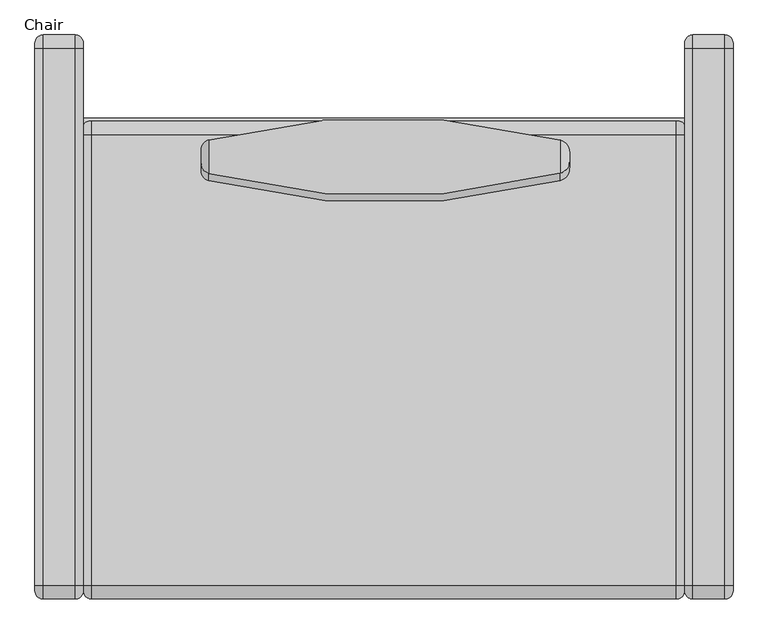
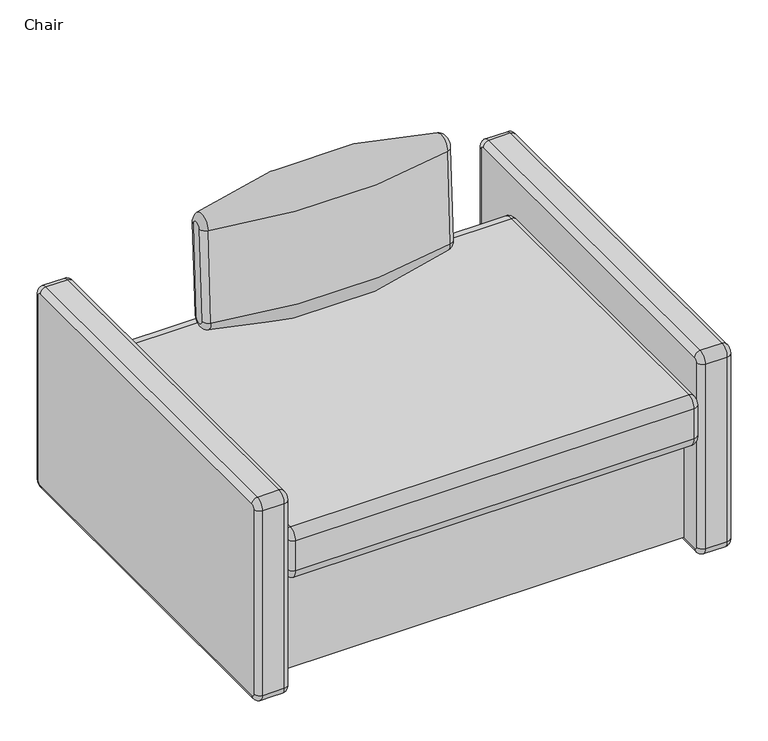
"""IFC4 building model written with IfcOpenShell, lengths in millimetres: furniture geometry, Steelcase Coalesse - Evaneau - Seating - Chair : Chair."""

from ifc_helpers import new_model, si_unit, point, frame, origin, place, context, project, spatial, polyline, circle_curve, ellipse_curve, trimmed, source, transform, mapped, element, save
from ifc_brep_helpers import plane_surface, cylinder_surface, revolved_surface, advanced_brep


def chair_3ea6e28a(model_context):
    return source(origin(), model_context, "Body", "AdvancedBrep", [
        advanced_brep(
        [(-942.8406826, 879.5738856, 692.9040621), (-942.8406826, 899.9232528, 691.8375969), (-942.8406826, 888.8224164, 480.0210201), (-942.8406826, 868.4730492, 481.0874852), (-930.9351855, 864.1774825, 693.7109534), (-930.9351855, 915.3196559, 691.0307057), (-395.2305616, 864.4998643, 693.6940581), (-395.2305616, 914.9972741, 691.047601), (-381.0204546, 882.8995406, 692.7297719), (-381.0204546, 896.5975978, 692.0118871), (-381.0204546, 871.7987042, 480.913195), (-381.0204546, 885.4967614, 480.1953103), (-395.2305616, 903.8964377, 479.2310241), (-395.2305616, 853.3990279, 481.8774812), (-930.9351855, 853.0766461, 481.8943765), (-930.9351855, 904.2188195, 479.2141288)],
        [
            (0, 1, circle_curve(frame((-942.8406826, 889.7485692, 692.3708295), z_axis=(-1.0, 0.0, 0.0), x_axis=(0.0, 0.9986295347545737, -0.052335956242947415)), 10.1886468)),
            (1, 2),
            (2, 3, circle_curve(frame((-942.8406826, 878.6477328, 480.5542526), z_axis=(-1.0, 0.0, 0.0), x_axis=(0.0, 0.9986295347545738, -0.05233595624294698)), 10.1886468)),
            (3, 0),
            (0, 4, circle_curve(frame((-926.905138, 879.5738856, 692.9040621), z_axis=(0.0, 0.05233595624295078, 0.9986295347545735), x_axis=(1.0, 0.0, 0.0)), 15.9355447)),
            (4, 5, circle_curve(frame((-930.9351855, 889.7485692, 692.3708295), z_axis=(-1.0, 0.0, 0.0), x_axis=(0.0, 0.9986295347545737, -0.052335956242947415)), 25.606179)),
            (5, 1, circle_curve(frame((-926.905138, 899.9232528, 691.8375969), z_axis=(0.0, 0.052335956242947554, 0.9986295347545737), x_axis=(1.0, 0.0, 0.0)), 15.9355447)),
            (4, 6, circle_curve(frame((-663.6988615, 1885.1277547, 640.2052169), z_axis=(0.0, 0.05233595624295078, 0.9986295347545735), x_axis=(1.0, 0.0, 0.0)), 1056.7012705)),
            (6, 7, circle_curve(frame((-395.2305616, 889.7485692, 692.3708295), z_axis=(-1.0, 0.0, 0.0), x_axis=(0.0, 0.9986295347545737, -0.052335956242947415)), 25.2833549)),
            (7, 5, circle_curve(frame((-663.6988615, -105.6306163, 744.5364422), z_axis=(0.0, 0.052335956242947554, 0.9986295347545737), x_axis=(1.0, 0.0, 0.0)), 1056.7012705)),
            (6, 8, circle_curve(frame((-400.0704546, 882.8995406, 692.7297719), z_axis=(0.0, 0.05233595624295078, 0.9986295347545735), x_axis=(1.0, 0.0, 0.0)), 19.05)),
            (8, 9, circle_curve(frame((-381.0204546, 889.7485692, 692.3708295), z_axis=(-1.0, 0.0, 0.0), x_axis=(0.0, 0.9986295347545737, -0.052335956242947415)), 6.8584279)),
            (9, 7, circle_curve(frame((-400.0704546, 896.5975978, 692.0118871), z_axis=(0.0, 0.052335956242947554, 0.9986295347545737), x_axis=(1.0, 0.0, 0.0)), 19.05)),
            (8, 10),
            (10, 11, circle_curve(frame((-381.0204546, 878.6477328, 480.5542526), z_axis=(1.0, 0.0, 0.0), x_axis=(0.0, 0.9986295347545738, -0.05233595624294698)), 6.8584279)),
            (11, 9),
            (12, 7),
            (11, 12, circle_curve(frame((-400.0704546, 885.4967614, 480.1953103), z_axis=(0.0, 0.052335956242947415, 0.9986295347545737), x_axis=(1.0, 0.0, 0.0)), 19.05)),
            (6, 13),
            (13, 10, circle_curve(frame((-400.0704546, 871.7987042, 480.913195), z_axis=(0.0, 0.05233595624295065, 0.9986295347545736), x_axis=(1.0, 0.0, 0.0)), 19.05)),
            (4, 14),
            (14, 13, circle_curve(frame((-663.6988615, 1874.0269183, 428.38864), z_axis=(0.0, 0.05233595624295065, 0.9986295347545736), x_axis=(1.0, 0.0, 0.0)), 1056.7012705)),
            (3, 14, circle_curve(frame((-926.905138, 868.4730492, 481.0874852), z_axis=(0.0, 0.05233595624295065, 0.9986295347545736), x_axis=(1.0, 0.0, 0.0)), 15.9355447)),
            (5, 15),
            (15, 2, circle_curve(frame((-926.905138, 888.8224164, 480.0210201), z_axis=(0.0, 0.052335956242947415, 0.9986295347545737), x_axis=(1.0, 0.0, 0.0)), 15.9355447)),
            (12, 15, circle_curve(frame((-663.6988615, -116.7314527, 532.7198653), z_axis=(0.0, 0.052335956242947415, 0.9986295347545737), x_axis=(1.0, 0.0, 0.0)), 1056.7012705)),
            (15, 14, circle_curve(frame((-930.9351855, 878.6477328, 480.5542526), z_axis=(-1.0, 0.0, 0.0), x_axis=(0.0, 0.9986295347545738, -0.05233595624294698)), 25.606179)),
            (13, 12, circle_curve(frame((-395.2305616, 878.6477328, 480.5542526), z_axis=(1.0, 0.0, 0.0), x_axis=(0.0, 0.9986295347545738, -0.05233595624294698)), 25.2833549)),
        ],
        [
            plane_surface(frame((-942.8406826, 889.7485692, 692.3708295), z_axis=(-1.0, 0.0, 0.0), x_axis=(0.0, 0.9986295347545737, -0.052335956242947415))),
            revolved_surface(trimmed(ellipse_curve(frame((-926.905138, 899.9232528, 691.8375969), z_axis=(0.0, -0.052335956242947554, -0.9986295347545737), x_axis=(1.0, 0.0, 0.0)), 15.9355447, 15.9355447), [point((-942.8406826, 899.9232528, 691.8375969))], [point((-930.9351855, 915.3196559, 691.0307057))], True, "CARTESIAN"), (-942.8406826, 889.7485692, 692.3708295), (1.0, 0.0, 0.0)),
            revolved_surface(trimmed(ellipse_curve(frame((-663.6988615, -105.6306163, 744.5364422), z_axis=(0.0, -0.052335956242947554, -0.9986295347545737), x_axis=(1.0, 0.0, 0.0)), 1056.7012705, 1056.7012705), [point((-930.9351855, 915.3196559, 691.0307057))], [point((-395.2305616, 914.9972741, 691.047601))], True, "CARTESIAN"), (-942.8406826, 889.7485692, 692.3708295), (1.0, 0.0, 0.0)),
            revolved_surface(trimmed(ellipse_curve(frame((-400.0704546, 896.5975978, 692.0118871), z_axis=(0.0, -0.052335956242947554, -0.9986295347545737), x_axis=(1.0, 0.0, 0.0)), 19.05, 19.05), [point((-395.2305616, 914.9972741, 691.047601))], [point((-381.0204546, 896.5975978, 692.0118871))], True, "CARTESIAN"), (-942.8406826, 889.7485692, 692.3708295), (1.0, 0.0, 0.0)),
            plane_surface(frame((-381.0204546, 889.7485692, 692.3708295), z_axis=(1.0, 0.0, 0.0), x_axis=(0.0, 0.9986295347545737, -0.052335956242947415))),
            cylinder_surface(frame((-400.0704546, 896.5975978, 692.0118871), z_axis=(0.0, -0.052335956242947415, -0.9986295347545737), x_axis=(1.0, 0.0, 0.0)), 19.05),
            cylinder_surface(frame((-400.0704546, 882.8995406, 692.7297719), z_axis=(0.0, -0.05233595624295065, -0.9986295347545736), x_axis=(1.0, 0.0, 0.0)), 19.05),
            cylinder_surface(frame((-663.6988615, 1885.1277547, 640.2052169), z_axis=(0.0, -0.05233595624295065, -0.9986295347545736), x_axis=(1.0, 0.0, 0.0)), 1056.7012705),
            cylinder_surface(frame((-926.905138, 879.5738856, 692.9040621), z_axis=(0.0, -0.05233595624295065, -0.9986295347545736), x_axis=(1.0, 0.0, 0.0)), 15.9355447),
            cylinder_surface(frame((-926.905138, 899.9232528, 691.8375969), z_axis=(0.0, -0.052335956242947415, -0.9986295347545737), x_axis=(1.0, 0.0, 0.0)), 15.9355447),
            cylinder_surface(frame((-663.6988615, -105.6306163, 744.5364422), z_axis=(0.0, -0.052335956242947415, -0.9986295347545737), x_axis=(1.0, 0.0, 0.0)), 1056.7012705),
            revolved_surface(trimmed(ellipse_curve(frame((-926.905138, 888.8224164, 480.0210201), z_axis=(0.0, 0.05233595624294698, 0.9986295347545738), x_axis=(1.0, 0.0, 0.0)), 15.9355447, 15.9355447), [point((-930.9351855, 904.2188195, 479.2141288))], [point((-942.8406826, 888.8224164, 480.0210201))], True, "CARTESIAN"), (-381.0204546, 878.6477328, 480.5542526), (-1.0, 0.0, 0.0)),
            revolved_surface(trimmed(ellipse_curve(frame((-400.0704546, 885.4967614, 480.1953103), z_axis=(0.0, 0.05233595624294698, 0.9986295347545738), x_axis=(1.0, 0.0, 0.0)), 19.05, 19.05), [point((-381.0204546, 885.4967614, 480.1953103))], [point((-395.2305616, 903.8964377, 479.2310241))], True, "CARTESIAN"), (-381.0204546, 878.6477328, 480.5542526), (-1.0, 0.0, 0.0)),
            revolved_surface(trimmed(ellipse_curve(frame((-663.6988615, -116.7314527, 532.7198653), z_axis=(0.0, 0.05233595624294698, 0.9986295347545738), x_axis=(1.0, 0.0, 0.0)), 1056.7012705, 1056.7012705), [point((-395.2305616, 903.8964377, 479.2310241))], [point((-930.9351855, 904.2188195, 479.2141288))], True, "CARTESIAN"), (-381.0204546, 878.6477328, 480.5542526), (-1.0, 0.0, 0.0)),
        ],
        [
            (0, [[1, 2, 3, 4]]),
            (1, [[-1, 5, 6, 7]]),
            (2, [[-6, 8, 9, 10]]),
            (3, [[-9, 11, 12, 13]]),
            (4, [[-12, 14, 15, 16]]),
            (5, [[17, -13, -16, 18]]),
            (6, [[-14, -11, 19, 20]]),
            (7, [[-19, -8, 21, 22]]),
            (8, [[-21, -5, -4, 23]]),
            (9, [[-2, -7, 24, 25]]),
            (10, [[-17, 26, -24, -10]]),
            (11, [[-3, -25, 27, -23]]),
            (12, [[-15, -20, 28, -18]]),
            (13, [[-27, -26, -28, -22]]),
        ],
    ),
        advanced_brep(
        [(-1122.2082605, 232.8871832, 334.6073799), (-1122.2082605, 234.5671953, 336.5124442), (-206.5501978, 234.5671953, 336.5124442), (-205.6275834, 234.5671953, 336.5124442), (-205.6275834, 232.8871832, 334.6073799), (-218.3275834, 224.4871947, 325.0821401), (-1109.5082605, 224.4871947, 325.0821401), (-1122.2082605, 227.727162, 346.037684), (-1122.2082605, 227.727162, 416.7787342), (-1122.2082605, 235.3471838, 424.398756), (-1122.2082605, 922.9861595, 424.398756), (-1122.2082605, 937.6711322, 420.2283871), (-1122.2082605, 936.3361242, 418.0674927), (-1122.2082605, 948.3861595, 396.4587342), (-1122.2082605, 948.3861595, 71.5737426), (-1122.2082605, 276.8732961, 71.5737426), (-1122.2082605, 276.8732961, 333.337684), (-1122.2082605, 242.9671838, 333.337684), (-205.6275834, 230.2671838, 346.037684), (-206.5501978, 230.2671838, 346.037684), (-205.6275834, 230.2671838, 416.7787342), (-205.6275834, 235.3471838, 421.8587342), (-205.6275834, 922.9861595, 421.8587342), (-205.6275834, 936.3361242, 418.0674927), (-205.6275834, 937.6711322, 420.2283871), (-205.6275834, 922.9861595, 424.398756), (-205.6275834, 235.3471838, 424.398756), (-205.6275834, 227.727162, 416.7787342), (-205.6275834, 227.727162, 346.037684), (-218.3275834, 215.027162, 346.037684), (-1109.5082605, 215.027162, 346.037684), (-206.5501978, 230.2671838, 416.7787342), (-218.3275834, 215.027162, 416.7787342), (-1109.5082605, 215.027162, 416.7787342), (-206.5501978, 235.3471838, 421.8587342), (-218.3275834, 235.3471838, 437.098756), (-1109.5082605, 235.3471838, 437.098756), (-206.5501978, 922.9861595, 421.8587342), (-218.3275834, 922.9861595, 437.098756), (-1109.5082605, 922.9861595, 437.098756), (-1109.5082605, 944.3461145, 431.0327663), (-218.3275834, 944.3461145, 431.0327663), (-206.5501978, 936.3361242, 418.0674927), (-206.5501978, 242.9671838, 333.337684), (-206.5501978, 276.8732961, 333.337684), (-206.5501978, 276.8732961, 71.5737426), (-206.5501978, 948.3861595, 71.5737426), (-206.5501978, 948.3861595, 396.4587342)],
        [
            (0, 1),
            (1, 2),
            (2, 3),
            (3, 4),
            (4, 5, circle_curve(frame((-218.3275834, 232.8871832, 334.6073799), z_axis=(0.0, 0.7500188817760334, -0.6614164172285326), x_axis=(1.0, 0.0, 0.0)), 12.7)),
            (5, 6),
            (6, 0, circle_curve(frame((-1109.5082605, 232.8871832, 334.6073799), z_axis=(0.0, 0.7500188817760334, -0.6614164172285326), x_axis=(1.0, 0.0, 0.0)), 12.7)),
            (0, 7, circle_curve(frame((-1122.2082605, 242.9671838, 346.037684), z_axis=(-1.0, 0.0, 0.0), x_axis=(0.0, -0.6614164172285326, -0.7500188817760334)), 15.2400218)),
            (7, 8),
            (8, 9, circle_curve(frame((-1122.2082605, 235.3471838, 416.7787342), z_axis=(-1.0, 0.0, 0.0), x_axis=(0.0, -1.0, 0.0)), 7.6200218)),
            (9, 10),
            (10, 11, circle_curve(frame((-1122.2082605, 922.9861595, 396.4587342), z_axis=(-1.0, 0.0, 0.0), x_axis=(0.0, 0.0, 1.0)), 27.9400218)),
            (11, 12),
            (12, 13, circle_curve(frame((-1122.2082605, 922.9861595, 396.4587342), z_axis=(-1.0, 0.0, 0.0), x_axis=(0.0, -1.0, 0.0)), 25.4)),
            (13, 14),
            (14, 15),
            (15, 16),
            (16, 17),
            (17, 1, circle_curve(frame((-1122.2082605, 242.9671838, 346.037684), z_axis=(-1.0, 0.0, 0.0), x_axis=(0.0, -1.0, 0.0)), 12.7)),
            (18, 3, circle_curve(frame((-205.6275834, 242.9671838, 346.037684), z_axis=(1.0, 0.0, 0.0), x_axis=(0.0, -0.6614164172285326, -0.7500188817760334)), 12.7)),
            (2, 19, circle_curve(frame((-206.5501978, 242.9671838, 346.037684), z_axis=(-1.0, 0.0, 0.0), x_axis=(0.0, -0.6614164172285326, -0.7500188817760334)), 12.7)),
            (19, 18),
            (18, 20),
            (20, 21, circle_curve(frame((-205.6275834, 235.3471838, 416.7787342), z_axis=(-1.0, 0.0, 0.0), x_axis=(0.0, -1.0, 0.0)), 5.08)),
            (21, 22),
            (22, 23, circle_curve(frame((-205.6275834, 922.9861595, 396.4587342), z_axis=(-1.0, 0.0, 0.0), x_axis=(0.0, 0.0, 1.0)), 25.4)),
            (23, 24),
            (24, 25, circle_curve(frame((-205.6275834, 922.9861595, 396.4587342), z_axis=(1.0, 0.0, 0.0), x_axis=(0.0, 0.0, 1.0)), 27.9400218)),
            (25, 26),
            (26, 27, circle_curve(frame((-205.6275834, 235.3471838, 416.7787342), z_axis=(1.0, 0.0, 0.0), x_axis=(0.0, -1.0, 0.0)), 7.6200218)),
            (27, 28),
            (28, 4, circle_curve(frame((-205.6275834, 242.9671838, 346.037684), z_axis=(1.0, 0.0, 0.0), x_axis=(0.0, -0.6614164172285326, -0.7500188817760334)), 15.2400218)),
            (28, 29, circle_curve(frame((-218.3275834, 227.727162, 346.037684), z_axis=(0.0, 0.0, -1.0), x_axis=(1.0, 0.0, 0.0)), 12.7)),
            (29, 5, circle_curve(frame((-218.3275834, 242.9671838, 346.037684), z_axis=(1.0, 0.0, 0.0), x_axis=(0.0, -0.6614164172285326, -0.7500188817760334)), 27.9400218)),
            (29, 30),
            (30, 6, circle_curve(frame((-1109.5082605, 242.9671838, 346.037684), z_axis=(1.0, 0.0, 0.0), x_axis=(0.0, -0.6614164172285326, -0.7500188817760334)), 27.9400218)),
            (30, 7, circle_curve(frame((-1109.5082605, 227.727162, 346.037684), z_axis=(0.0, 0.0, -1.0), x_axis=(1.0, 0.0, 0.0)), 12.7)),
            (19, 31),
            (31, 20),
            (27, 32, circle_curve(frame((-218.3275834, 227.727162, 416.7787342), z_axis=(0.0, 0.0, -1.0), x_axis=(1.0, 0.0, 0.0)), 12.7)),
            (32, 29),
            (32, 33),
            (33, 30),
            (33, 8, circle_curve(frame((-1109.5082605, 227.727162, 416.7787342), z_axis=(0.0, 0.0, -1.0), x_axis=(1.0, 0.0, 0.0)), 12.7)),
            (31, 34, circle_curve(frame((-206.5501978, 235.3471838, 416.7787342), z_axis=(-1.0, 0.0, 0.0), x_axis=(0.0, -1.0, 0.0)), 5.08)),
            (34, 21),
            (26, 35, circle_curve(frame((-218.3275834, 235.3471838, 424.398756), z_axis=(0.0, -1.0, 0.0), x_axis=(1.0, 0.0, 0.0)), 12.7)),
            (35, 32, circle_curve(frame((-218.3275834, 235.3471838, 416.7787342), z_axis=(1.0, 0.0, 0.0), x_axis=(0.0, -1.0, 0.0)), 20.3200218)),
            (35, 36),
            (36, 33, circle_curve(frame((-1109.5082605, 235.3471838, 416.7787342), z_axis=(1.0, 0.0, 0.0), x_axis=(0.0, -1.0, 0.0)), 20.3200218)),
            (36, 9, circle_curve(frame((-1109.5082605, 235.3471838, 424.398756), z_axis=(0.0, -1.0, 0.0), x_axis=(1.0, 0.0, 0.0)), 12.7)),
            (34, 37),
            (37, 22),
            (25, 38, circle_curve(frame((-218.3275834, 922.9861595, 424.398756), z_axis=(0.0, -1.0, 0.0), x_axis=(1.0, 0.0, 0.0)), 12.7)),
            (38, 35),
            (38, 39),
            (39, 36),
            (39, 10, circle_curve(frame((-1109.5082605, 922.9861595, 424.398756), z_axis=(0.0, -1.0, 0.0), x_axis=(1.0, 0.0, 0.0)), 12.7)),
            (11, 40, circle_curve(frame((-1109.5082605, 937.6711322, 420.2283871), z_axis=(0.0, 0.850738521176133, -0.525589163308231), x_axis=(1.0, 0.0, 0.0)), 12.7)),
            (40, 41),
            (41, 24, circle_curve(frame((-218.3275834, 937.6711322, 420.2283871), z_axis=(0.0, 0.850738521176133, -0.525589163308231), x_axis=(1.0, 0.0, 0.0)), 12.7)),
            (23, 42),
            (42, 12),
            (37, 42, circle_curve(frame((-206.5501978, 922.9861595, 396.4587342), z_axis=(-1.0, 0.0, 0.0), x_axis=(0.0, 0.0, 1.0)), 25.4)),
            (41, 38, circle_curve(frame((-218.3275834, 922.9861595, 396.4587342), z_axis=(1.0, 0.0, 0.0), x_axis=(0.0, 0.0, 1.0)), 40.6400218)),
            (40, 39, circle_curve(frame((-1109.5082605, 922.9861595, 396.4587342), z_axis=(1.0, 0.0, 0.0), x_axis=(0.0, 0.0, 1.0)), 40.6400218)),
            (43, 44),
            (44, 45),
            (45, 46),
            (46, 47),
            (47, 42, circle_curve(frame((-206.5501978, 922.9861595, 396.4587342), z_axis=(1.0, 0.0, 0.0), x_axis=(0.0, -1.0, 0.0)), 25.4)),
            (2, 43, circle_curve(frame((-206.5501978, 242.9671838, 346.037684), z_axis=(1.0, 0.0, 0.0), x_axis=(0.0, -1.0, 0.0)), 12.7)),
            (47, 13),
            (46, 14),
            (45, 15),
            (44, 16),
            (43, 17),
        ],
        [
            plane_surface(frame((-663.917922, 234.5671953, 336.5124442), z_axis=(0.0, 0.7500188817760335, -0.6614164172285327), x_axis=(-1.0, 0.0, 0.0))),
            plane_surface(frame((-1122.2082605, 242.9671838, 346.037684), z_axis=(-1.0, 0.0, 0.0), x_axis=(0.0, -0.6614164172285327, -0.7500188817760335))),
            revolved_surface(polyline([(-206.55019779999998, 234.56719530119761, 336.5124442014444), (-205.6275834, 234.56719530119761, 336.5124442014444)]), (-663.917922, 242.9671838, 346.037684), (-1.0, 0.0, 0.0)),
            plane_surface(frame((-205.6275834, 242.9671838, 346.037684), z_axis=(1.0, 0.0, 0.0), x_axis=(0.0, -0.6614164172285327, -0.7500188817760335))),
            revolved_surface(trimmed(ellipse_curve(frame((-218.3275834, 232.8871832, 334.6073799), z_axis=(0.0, 0.7500188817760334, -0.6614164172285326), x_axis=(1.0, 0.0, 0.0)), 12.7, 12.7), [point((-205.6275834, 232.8871832, 334.6073799))], [point((-218.3275834, 224.4871947, 325.0821401))], True, "CARTESIAN"), (-663.917922, 242.9671838, 346.037684), (-1.0, 0.0, 0.0)),
            cylinder_surface(frame((-663.917922, 242.9671838, 346.037684), z_axis=(-1.0, 0.0, 0.0), x_axis=(0.0, -0.6614164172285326, -0.7500188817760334)), 27.9400218),
            revolved_surface(trimmed(ellipse_curve(frame((-1109.5082605, 232.8871832, 334.6073799), z_axis=(0.0, 0.7500188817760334, -0.6614164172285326), x_axis=(1.0, 0.0, 0.0)), 12.7, 12.7), [point((-1109.5082605, 224.4871947, 325.0821401))], [point((-1122.2082605, 232.8871832, 334.6073799))], True, "CARTESIAN"), (-663.917922, 242.9671838, 346.037684), (-1.0, 0.0, 0.0)),
            plane_surface(frame((-1122.2082605, 230.2671838, 346.037684), z_axis=(0.0, 1.0, 0.0), x_axis=(0.0, 0.0, 1.0))),
            cylinder_surface(frame((-218.3275834, 227.727162, 346.037684), z_axis=(0.0, 0.0, -1.0), x_axis=(1.0, 0.0, 0.0)), 12.7),
            plane_surface(frame((-218.3275834, 215.027162, 346.037684), z_axis=(0.0, -1.0, 0.0), x_axis=(0.0, 0.0, 1.0))),
            cylinder_surface(frame((-1109.5082605, 227.727162, 346.037684), z_axis=(0.0, 0.0, -1.0), x_axis=(1.0, 0.0, 0.0)), 12.7),
            revolved_surface(polyline([(-206.55019779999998, 230.2671838, 416.7787342), (-205.6275834, 230.2671838, 416.7787342)]), (-663.917922, 235.3471838, 416.7787342), (-1.0, 0.0, 0.0)),
            revolved_surface(trimmed(ellipse_curve(frame((-218.3275834, 227.727162, 416.7787342), z_axis=(0.0, 0.0, -1.0), x_axis=(1.0, 0.0, 0.0)), 12.7, 12.7), [point((-205.6275834, 227.727162, 416.7787342))], [point((-218.3275834, 215.027162, 416.7787342))], True, "CARTESIAN"), (-663.917922, 235.3471838, 416.7787342), (-1.0, 0.0, 0.0)),
            cylinder_surface(frame((-663.917922, 235.3471838, 416.7787342), z_axis=(-1.0, 0.0, 0.0), x_axis=(0.0, -1.0, 0.0)), 20.3200218),
            revolved_surface(trimmed(ellipse_curve(frame((-1109.5082605, 227.727162, 416.7787342), z_axis=(0.0, 0.0, -1.0), x_axis=(1.0, 0.0, 0.0)), 12.7, 12.7), [point((-1109.5082605, 215.027162, 416.7787342))], [point((-1122.2082605, 227.727162, 416.7787342))], True, "CARTESIAN"), (-663.917922, 235.3471838, 416.7787342), (-1.0, 0.0, 0.0)),
            plane_surface(frame((-1122.2082605, 235.3471838, 421.8587342), z_axis=(0.0, 0.0, -1.0), x_axis=(0.0, 1.0, 0.0))),
            cylinder_surface(frame((-218.3275834, 235.3471838, 424.398756), z_axis=(0.0, -1.0, 0.0), x_axis=(1.0, 0.0, 0.0)), 12.7),
            plane_surface(frame((-218.3275834, 235.3471838, 437.098756), z_axis=(0.0, 0.0, 1.0), x_axis=(0.0, 1.0, 0.0))),
            cylinder_surface(frame((-1109.5082605, 235.3471838, 424.398756), z_axis=(0.0, -1.0, 0.0), x_axis=(1.0, 0.0, 0.0)), 12.7),
            plane_surface(frame((-663.917922, 936.3361242, 418.0674927), z_axis=(0.0, 0.850738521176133, -0.5255891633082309), x_axis=(-1.0, 0.0, 0.0))),
            revolved_surface(polyline([(-206.55019779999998, 922.9861595, 421.85873419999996), (-205.6275834, 922.9861595, 421.85873419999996)]), (-663.917922, 922.9861595, 396.4587342), (-1.0, 0.0, 0.0)),
            revolved_surface(trimmed(ellipse_curve(frame((-218.3275834, 922.9861595, 424.398756), z_axis=(0.0, -1.0, 0.0), x_axis=(1.0, 0.0, 0.0)), 12.7, 12.7), [point((-205.6275834, 922.9861595, 424.398756))], [point((-218.3275834, 922.9861595, 437.098756))], True, "CARTESIAN"), (-663.917922, 922.9861595, 396.4587342), (-1.0, 0.0, 0.0)),
            cylinder_surface(frame((-663.917922, 922.9861595, 396.4587342), z_axis=(-1.0, 0.0, 0.0), x_axis=(0.0, 0.0, 1.0)), 40.6400218),
            revolved_surface(trimmed(ellipse_curve(frame((-1109.5082605, 922.9861595, 424.398756), z_axis=(0.0, -1.0, 0.0), x_axis=(1.0, 0.0, 0.0)), 12.7, 12.7), [point((-1109.5082605, 922.9861595, 437.098756))], [point((-1122.2082605, 922.9861595, 424.398756))], True, "CARTESIAN"), (-663.917922, 922.9861595, 396.4587342), (-1.0, 0.0, 0.0)),
            plane_surface(frame((-206.5501978, 948.3861595, 421.8587342), z_axis=(1.0, 0.0, 0.0), x_axis=(0.0, -1.0, 0.0))),
            cylinder_surface(frame((-206.5501978, 922.9861595, 396.4587342), z_axis=(-1.0, 0.0, 0.0), x_axis=(0.0, -1.0, 0.0)), 25.4),
            plane_surface(frame((-1122.2082605, 948.3861595, 396.4587342), z_axis=(0.0, 1.0, 0.0), x_axis=(1.0, 0.0, 0.0))),
            plane_surface(frame((-1122.2082605, 948.3861595, 71.5737426), z_axis=(0.0, 0.0, -1.0), x_axis=(1.0, 0.0, 0.0))),
            plane_surface(frame((-1122.2082605, 276.8732961, 71.5737426), z_axis=(0.0, -1.0, 0.0), x_axis=(1.0, 0.0, 0.0))),
            plane_surface(frame((-1122.2082605, 276.8732961, 333.337684), z_axis=(0.0, 0.0, -1.0), x_axis=(1.0, 0.0, 0.0))),
            cylinder_surface(frame((-206.5501978, 242.9671838, 346.037684), z_axis=(-1.0, 0.0, 0.0), x_axis=(0.0, -1.0, 0.0)), 12.7),
        ],
        [
            (0, [[1, 2, 3, 4, 5, 6, 7]]),
            (1, [[-1, 8, 9, 10, 11, 12, 13, 14, 15, 16, 17, 18, 19]]),
            (2, [[20, -3, 21, 22]]),
            (3, [[-4, -20, 23, 24, 25, 26, 27, 28, 29, 30, 31, 32]]),
            (4, [[-5, -32, 33, 34]]),
            (5, [[-6, -34, 35, 36]]),
            (6, [[-7, -36, 37, -8]]),
            (7, [[-23, -22, 38, 39]]),
            (8, [[-31, 40, 41, -33]]),
            (9, [[-35, -41, 42, 43]]),
            (10, [[-9, -37, -43, 44]]),
            (11, [[-24, -39, 45, 46]]),
            (12, [[-30, 47, 48, -40]]),
            (13, [[-42, -48, 49, 50]]),
            (14, [[-10, -44, -50, 51]]),
            (15, [[-25, -46, 52, 53]]),
            (16, [[-29, 54, 55, -47]]),
            (17, [[-49, -55, 56, 57]]),
            (18, [[-11, -51, -57, 58]]),
            (19, [[-13, 59, 60, 61, -27, 62, 63]]),
            (20, [[-26, -53, 64, -62]]),
            (21, [[-28, -61, 65, -54]]),
            (22, [[-56, -65, -60, 66]]),
            (23, [[-12, -58, -66, -59]]),
            (24, [[67, 68, 69, 70, 71, -64, -52, -45, -38, -21, 72]]),
            (25, [[73, -14, -63, -71]]),
            (26, [[-15, -73, -70, 74]]),
            (27, [[-16, -74, -69, 75]]),
            (28, [[-17, -75, -68, 76]]),
            (29, [[-18, -76, -67, 77]]),
            (30, [[-77, -72, -2, -19]]),
        ],
    ),
        advanced_brep(
        [(-1196.1025873, 1055.3115321, 520.7), (-1196.1025873, 1062.9315539, 513.0799782), (-1196.1025873, 1062.9315539, 76.6537426), (-1196.1025873, 1055.3115321, 69.0337208), (-1196.1025873, 235.3471838, 69.0337208), (-1196.1025873, 227.727162, 76.6537426), (-1196.1025873, 227.727162, 513.0799782), (-1196.1025873, 235.3471838, 520.7), (-1122.2082605, 1062.9315539, 513.0799782), (-1122.2082605, 1055.3115321, 520.7), (-1122.2082605, 235.3471838, 520.7), (-1122.2082605, 227.727162, 513.0799782), (-1122.2082605, 227.727162, 76.6537426), (-1122.2082605, 235.3471838, 69.0337208), (-1122.2082605, 1055.3115321, 69.0337208), (-1122.2082605, 1062.9315539, 76.6537426), (-1134.9082605, 1075.6315539, 513.0799782), (-1134.9082605, 1055.3115321, 533.4), (-1183.4025873, 1075.6315539, 513.0799782), (-1183.4025873, 1055.3115321, 533.4), (-1134.9082605, 1075.6315539, 76.6537426), (-1183.4025873, 1075.6315539, 76.6537426), (-1134.9082605, 1055.3115321, 56.3337208), (-1183.4025873, 1055.3115321, 56.3337208), (-1134.9082605, 235.3471838, 56.3337208), (-1183.4025873, 235.3471838, 56.3337208), (-1134.9082605, 215.027162, 76.6537426), (-1183.4025873, 215.027162, 76.6537426), (-1134.9082605, 215.027162, 513.0799782), (-1183.4025873, 215.027162, 513.0799782), (-1134.9082605, 235.3471838, 533.4), (-1183.4025873, 235.3471838, 533.4)],
        [
            (0, 1, circle_curve(frame((-1196.1025873, 1055.3115321, 513.0799782), z_axis=(-1.0, 0.0, 0.0), x_axis=(0.0, 0.0, 1.0)), 7.6200218)),
            (1, 2),
            (2, 3, circle_curve(frame((-1196.1025873, 1055.3115321, 76.6537426), z_axis=(-1.0, 0.0, 0.0), x_axis=(0.0, 1.0, 0.0)), 7.6200218)),
            (3, 4),
            (4, 5, circle_curve(frame((-1196.1025873, 235.3471838, 76.6537426), z_axis=(-1.0, 0.0, 0.0), x_axis=(0.0, 0.0, -1.0)), 7.6200218)),
            (5, 6),
            (6, 7, circle_curve(frame((-1196.1025873, 235.3471838, 513.0799782), z_axis=(-1.0, 0.0, 0.0), x_axis=(0.0, -1.0, 0.0)), 7.6200218)),
            (7, 0),
            (8, 9, circle_curve(frame((-1122.2082605, 1055.3115321, 513.0799782), z_axis=(1.0, 0.0, 0.0), x_axis=(0.0, 0.0, 1.0)), 7.6200218)),
            (9, 10),
            (10, 11, circle_curve(frame((-1122.2082605, 235.3471838, 513.0799782), z_axis=(1.0, 0.0, 0.0), x_axis=(0.0, -1.0, 0.0)), 7.6200218)),
            (11, 12),
            (12, 13, circle_curve(frame((-1122.2082605, 235.3471838, 76.6537426), z_axis=(1.0, 0.0, 0.0), x_axis=(0.0, 0.0, -1.0)), 7.6200218)),
            (13, 14),
            (14, 15, circle_curve(frame((-1122.2082605, 1055.3115321, 76.6537426), z_axis=(1.0, 0.0, 0.0), x_axis=(0.0, 1.0, 0.0)), 7.6200218)),
            (15, 8),
            (16, 17, circle_curve(frame((-1134.9082605, 1055.3115321, 513.0799782), z_axis=(1.0, 0.0, 0.0), x_axis=(0.0, 0.0, 1.0)), 20.3200218)),
            (17, 9, circle_curve(frame((-1134.9082605, 1055.3115321, 520.7), z_axis=(0.0, 1.0, 0.0), x_axis=(1.0, 0.0, 0.0)), 12.7)),
            (8, 16, circle_curve(frame((-1134.9082605, 1062.9315539, 513.0799782), z_axis=(0.0, 0.0, 1.0), x_axis=(1.0, 0.0, 0.0)), 12.7)),
            (16, 18),
            (18, 19, circle_curve(frame((-1183.4025873, 1055.3115321, 513.0799782), z_axis=(1.0, 0.0, 0.0), x_axis=(0.0, 0.0, 1.0)), 20.3200218)),
            (19, 17),
            (18, 1, circle_curve(frame((-1183.4025873, 1062.9315539, 513.0799782), z_axis=(0.0, 0.0, 1.0), x_axis=(1.0, 0.0, 0.0)), 12.7)),
            (0, 19, circle_curve(frame((-1183.4025873, 1055.3115321, 520.7), z_axis=(0.0, 1.0, 0.0), x_axis=(1.0, 0.0, 0.0)), 12.7)),
            (15, 20, circle_curve(frame((-1134.9082605, 1062.9315539, 76.6537426), z_axis=(0.0, 0.0, 1.0), x_axis=(1.0, 0.0, 0.0)), 12.7)),
            (20, 16),
            (20, 21),
            (21, 18),
            (21, 2, circle_curve(frame((-1183.4025873, 1062.9315539, 76.6537426), z_axis=(0.0, 0.0, 1.0), x_axis=(1.0, 0.0, 0.0)), 12.7)),
            (14, 22, circle_curve(frame((-1134.9082605, 1055.3115321, 69.0337208), z_axis=(0.0, 1.0, 0.0), x_axis=(1.0, 0.0, 0.0)), 12.7)),
            (22, 20, circle_curve(frame((-1134.9082605, 1055.3115321, 76.6537426), z_axis=(1.0, 0.0, 0.0), x_axis=(0.0, 1.0, 0.0)), 20.3200218)),
            (22, 23),
            (23, 21, circle_curve(frame((-1183.4025873, 1055.3115321, 76.6537426), z_axis=(1.0, 0.0, 0.0), x_axis=(0.0, 1.0, 0.0)), 20.3200218)),
            (23, 3, circle_curve(frame((-1183.4025873, 1055.3115321, 69.0337208), z_axis=(0.0, 1.0, 0.0), x_axis=(1.0, 0.0, 0.0)), 12.7)),
            (13, 24, circle_curve(frame((-1134.9082605, 235.3471838, 69.0337208), z_axis=(0.0, 1.0, 0.0), x_axis=(1.0, 0.0, 0.0)), 12.7)),
            (24, 22),
            (24, 25),
            (25, 23),
            (25, 4, circle_curve(frame((-1183.4025873, 235.3471838, 69.0337208), z_axis=(0.0, 1.0, 0.0), x_axis=(1.0, 0.0, 0.0)), 12.7)),
            (12, 26, circle_curve(frame((-1134.9082605, 227.727162, 76.6537426), z_axis=(0.0, 0.0, -1.0), x_axis=(1.0, 0.0, 0.0)), 12.7)),
            (26, 24, circle_curve(frame((-1134.9082605, 235.3471838, 76.6537426), z_axis=(1.0, 0.0, 0.0), x_axis=(0.0, 0.0, -1.0)), 20.3200218)),
            (26, 27),
            (27, 25, circle_curve(frame((-1183.4025873, 235.3471838, 76.6537426), z_axis=(1.0, 0.0, 0.0), x_axis=(0.0, 0.0, -1.0)), 20.3200218)),
            (27, 5, circle_curve(frame((-1183.4025873, 227.727162, 76.6537426), z_axis=(0.0, 0.0, -1.0), x_axis=(1.0, 0.0, 0.0)), 12.7)),
            (11, 28, circle_curve(frame((-1134.9082605, 227.727162, 513.0799782), z_axis=(0.0, 0.0, -1.0), x_axis=(1.0, 0.0, 0.0)), 12.7)),
            (28, 26),
            (28, 29),
            (29, 27),
            (29, 6, circle_curve(frame((-1183.4025873, 227.727162, 513.0799782), z_axis=(0.0, 0.0, -1.0), x_axis=(1.0, 0.0, 0.0)), 12.7)),
            (10, 30, circle_curve(frame((-1134.9082605, 235.3471838, 520.7), z_axis=(0.0, -1.0, 0.0), x_axis=(1.0, 0.0, 0.0)), 12.7)),
            (30, 28, circle_curve(frame((-1134.9082605, 235.3471838, 513.0799782), z_axis=(1.0, 0.0, 0.0), x_axis=(0.0, -1.0, 0.0)), 20.3200218)),
            (30, 31),
            (31, 29, circle_curve(frame((-1183.4025873, 235.3471838, 513.0799782), z_axis=(1.0, 0.0, 0.0), x_axis=(0.0, -1.0, 0.0)), 20.3200218)),
            (31, 7, circle_curve(frame((-1183.4025873, 235.3471838, 520.7), z_axis=(0.0, -1.0, 0.0), x_axis=(1.0, 0.0, 0.0)), 12.7)),
            (17, 30),
            (19, 31),
        ],
        [
            plane_surface(frame((-1196.1025873, 1060.3915321, 518.1599782), z_axis=(-1.0, 0.0, 0.0), x_axis=(0.0, 1.0, 0.0))),
            plane_surface(frame((-1122.2082605, 1060.3915321, 518.1599782), z_axis=(1.0, 0.0, 0.0), x_axis=(0.0, -1.0, 0.0))),
            revolved_surface(trimmed(ellipse_curve(frame((-1134.9082605, 1055.3115321, 520.7), z_axis=(0.0, -1.0, 0.0), x_axis=(1.0, 0.0, 0.0)), 12.7, 12.7), [point((-1122.2082605, 1055.3115321, 520.7))], [point((-1134.9082605, 1055.3115321, 533.4))], True, "CARTESIAN"), (-663.917922, 1055.3115321, 513.0799782), (-1.0, 0.0, 0.0)),
            cylinder_surface(frame((-663.917922, 1055.3115321, 513.0799782), z_axis=(-1.0, 0.0, 0.0), x_axis=(0.0, 0.0, 1.0)), 20.3200218),
            revolved_surface(trimmed(ellipse_curve(frame((-1183.4025873, 1055.3115321, 520.7), z_axis=(0.0, -1.0, 0.0), x_axis=(1.0, 0.0, 0.0)), 12.7, 12.7), [point((-1183.4025873, 1055.3115321, 533.4))], [point((-1196.1025873, 1055.3115321, 520.7))], True, "CARTESIAN"), (-663.917922, 1055.3115321, 513.0799782), (-1.0, 0.0, 0.0)),
            cylinder_surface(frame((-1134.9082605, 1062.9315539, 513.0799782), z_axis=(0.0, 0.0, 1.0), x_axis=(1.0, 0.0, 0.0)), 12.7),
            plane_surface(frame((-1134.9082605, 1075.6315539, 513.0799782), z_axis=(0.0, 1.0, 0.0), x_axis=(0.0, 0.0, -1.0))),
            cylinder_surface(frame((-1183.4025873, 1062.9315539, 513.0799782), z_axis=(0.0, 0.0, 1.0), x_axis=(1.0, 0.0, 0.0)), 12.7),
            revolved_surface(trimmed(ellipse_curve(frame((-1134.9082605, 1062.9315539, 76.6537426), z_axis=(0.0, 0.0, 1.0), x_axis=(1.0, 0.0, 0.0)), 12.7, 12.7), [point((-1122.2082605, 1062.9315539, 76.6537426))], [point((-1134.9082605, 1075.6315539, 76.6537426))], True, "CARTESIAN"), (-663.917922, 1055.3115321, 76.6537426), (-1.0, 0.0, 0.0)),
            cylinder_surface(frame((-663.917922, 1055.3115321, 76.6537426), z_axis=(-1.0, 0.0, 0.0), x_axis=(0.0, 1.0, 0.0)), 20.3200218),
            revolved_surface(trimmed(ellipse_curve(frame((-1183.4025873, 1062.9315539, 76.6537426), z_axis=(0.0, 0.0, 1.0), x_axis=(1.0, 0.0, 0.0)), 12.7, 12.7), [point((-1183.4025873, 1075.6315539, 76.6537426))], [point((-1196.1025873, 1062.9315539, 76.6537426))], True, "CARTESIAN"), (-663.917922, 1055.3115321, 76.6537426), (-1.0, 0.0, 0.0)),
            cylinder_surface(frame((-1134.9082605, 1055.3115321, 69.0337208), z_axis=(0.0, 1.0, 0.0), x_axis=(1.0, 0.0, 0.0)), 12.7),
            plane_surface(frame((-1134.9082605, 1055.3115321, 56.3337208), z_axis=(0.0, 0.0, -1.0), x_axis=(0.0, -1.0, 0.0))),
            cylinder_surface(frame((-1183.4025873, 1055.3115321, 69.0337208), z_axis=(0.0, 1.0, 0.0), x_axis=(1.0, 0.0, 0.0)), 12.7),
            revolved_surface(trimmed(ellipse_curve(frame((-1134.9082605, 235.3471838, 69.0337208), z_axis=(0.0, 1.0, 0.0), x_axis=(1.0, 0.0, 0.0)), 12.7, 12.7), [point((-1122.2082605, 235.3471838, 69.0337208))], [point((-1134.9082605, 235.3471838, 56.3337208))], True, "CARTESIAN"), (-663.917922, 235.3471838, 76.6537426), (-1.0, 0.0, 0.0)),
            cylinder_surface(frame((-663.917922, 235.3471838, 76.6537426), z_axis=(-1.0, 0.0, 0.0), x_axis=(0.0, 0.0, -1.0)), 20.3200218),
            revolved_surface(trimmed(ellipse_curve(frame((-1183.4025873, 235.3471838, 69.0337208), z_axis=(0.0, 1.0, 0.0), x_axis=(1.0, 0.0, 0.0)), 12.7, 12.7), [point((-1183.4025873, 235.3471838, 56.3337208))], [point((-1196.1025873, 235.3471838, 69.0337208))], True, "CARTESIAN"), (-663.917922, 235.3471838, 76.6537426), (-1.0, 0.0, 0.0)),
            cylinder_surface(frame((-1134.9082605, 227.727162, 76.6537426), z_axis=(0.0, 0.0, -1.0), x_axis=(1.0, 0.0, 0.0)), 12.7),
            plane_surface(frame((-1134.9082605, 215.027162, 76.6537426), z_axis=(0.0, -1.0, 0.0), x_axis=(0.0, 0.0, 1.0))),
            cylinder_surface(frame((-1183.4025873, 227.727162, 76.6537426), z_axis=(0.0, 0.0, -1.0), x_axis=(1.0, 0.0, 0.0)), 12.7),
            revolved_surface(trimmed(ellipse_curve(frame((-1134.9082605, 227.727162, 513.0799782), z_axis=(0.0, 0.0, -1.0), x_axis=(1.0, 0.0, 0.0)), 12.7, 12.7), [point((-1122.2082605, 227.727162, 513.0799782))], [point((-1134.9082605, 215.027162, 513.0799782))], True, "CARTESIAN"), (-663.917922, 235.3471838, 513.0799782), (-1.0, 0.0, 0.0)),
            cylinder_surface(frame((-663.917922, 235.3471838, 513.0799782), z_axis=(-1.0, 0.0, 0.0), x_axis=(0.0, -1.0, 0.0)), 20.3200218),
            revolved_surface(trimmed(ellipse_curve(frame((-1183.4025873, 227.727162, 513.0799782), z_axis=(0.0, 0.0, -1.0), x_axis=(1.0, 0.0, 0.0)), 12.7, 12.7), [point((-1183.4025873, 215.027162, 513.0799782))], [point((-1196.1025873, 227.727162, 513.0799782))], True, "CARTESIAN"), (-663.917922, 235.3471838, 513.0799782), (-1.0, 0.0, 0.0)),
            cylinder_surface(frame((-1134.9082605, 235.3471838, 520.7), z_axis=(0.0, -1.0, 0.0), x_axis=(1.0, 0.0, 0.0)), 12.7),
            plane_surface(frame((-1134.9082605, 235.3471838, 533.4), z_axis=(0.0, 0.0, 1.0), x_axis=(0.0, 1.0, 0.0))),
            cylinder_surface(frame((-1183.4025873, 235.3471838, 520.7), z_axis=(0.0, -1.0, 0.0), x_axis=(1.0, 0.0, 0.0)), 12.7),
        ],
        [
            (0, [[1, 2, 3, 4, 5, 6, 7, 8]]),
            (1, [[9, 10, 11, 12, 13, 14, 15, 16]]),
            (2, [[17, 18, -9, 19]]),
            (3, [[-17, 20, 21, 22]]),
            (4, [[-21, 23, -1, 24]]),
            (5, [[-19, -16, 25, 26]]),
            (6, [[-20, -26, 27, 28]]),
            (7, [[-23, -28, 29, -2]]),
            (8, [[-25, -15, 30, 31]]),
            (9, [[-27, -31, 32, 33]]),
            (10, [[-29, -33, 34, -3]]),
            (11, [[-30, -14, 35, 36]]),
            (12, [[-32, -36, 37, 38]]),
            (13, [[-34, -38, 39, -4]]),
            (14, [[-35, -13, 40, 41]]),
            (15, [[-37, -41, 42, 43]]),
            (16, [[-39, -43, 44, -5]]),
            (17, [[-40, -12, 45, 46]]),
            (18, [[-42, -46, 47, 48]]),
            (19, [[-44, -48, 49, -6]]),
            (20, [[-45, -11, 50, 51]]),
            (21, [[-47, -51, 52, 53]]),
            (22, [[-49, -53, 54, -7]]),
            (23, [[-18, 55, -50, -10]]),
            (24, [[-22, 56, -52, -55]]),
            (25, [[-24, -8, -54, -56]]),
        ],
    ),
        advanced_brep(
        [(-144.4332567, 1075.6315539, 513.0799782), (-144.4332567, 1055.3115321, 533.4), (-131.7332567, 1055.3115321, 520.7), (-131.7332567, 1062.9315539, 513.0799782), (-192.9275834, 1075.6315539, 513.0799782), (-192.9275834, 1055.3115321, 533.4), (-205.6275834, 1062.9315539, 513.0799782), (-205.6275834, 1055.3115321, 520.7), (-131.7332567, 1062.9315539, 76.6537426), (-144.4332567, 1075.6315539, 76.6537426), (-192.9275834, 1075.6315539, 76.6537426), (-205.6275834, 1062.9315539, 76.6537426), (-131.7332567, 1055.3115321, 69.0337208), (-144.4332567, 1055.3115321, 56.3337208), (-192.9275834, 1055.3115321, 56.3337208), (-205.6275834, 1055.3115321, 69.0337208), (-131.7332567, 235.3471838, 69.0337208), (-144.4332567, 235.3471838, 56.3337208), (-192.9275834, 235.3471838, 56.3337208), (-205.6275834, 235.3471838, 69.0337208), (-131.7332567, 227.727162, 76.6537426), (-144.4332567, 215.027162, 76.6537426), (-192.9275834, 215.027162, 76.6537426), (-205.6275834, 227.727162, 76.6537426), (-131.7332567, 227.727162, 513.0799782), (-144.4332567, 215.027162, 513.0799782), (-192.9275834, 215.027162, 513.0799782), (-205.6275834, 227.727162, 513.0799782), (-131.7332567, 235.3471838, 520.7), (-144.4332567, 235.3471838, 533.4), (-192.9275834, 235.3471838, 533.4), (-205.6275834, 235.3471838, 520.7)],
        [
            (0, 1, circle_curve(frame((-144.4332567, 1055.3115321, 513.0799782), z_axis=(1.0, 0.0, 0.0), x_axis=(0.0, 0.0, 1.0)), 20.3200218)),
            (1, 2, circle_curve(frame((-144.4332567, 1055.3115321, 520.7), z_axis=(0.0, 1.0, 0.0), x_axis=(-1.0, 0.0, 0.0)), 12.7)),
            (2, 3, circle_curve(frame((-131.7332567, 1055.3115321, 513.0799782), z_axis=(-1.0, 0.0, 0.0), x_axis=(0.0, 0.0, 1.0)), 7.6200218)),
            (3, 0, circle_curve(frame((-144.4332567, 1062.9315539, 513.0799782), z_axis=(0.0, 0.0, 1.0), x_axis=(-1.0, 0.0, 0.0)), 12.7)),
            (0, 4),
            (4, 5, circle_curve(frame((-192.9275834, 1055.3115321, 513.0799782), z_axis=(1.0, 0.0, 0.0), x_axis=(0.0, 0.0, 1.0)), 20.3200218)),
            (5, 1),
            (4, 6, circle_curve(frame((-192.9275834, 1062.9315539, 513.0799782), z_axis=(0.0, 0.0, 1.0), x_axis=(-1.0, 0.0, 0.0)), 12.7)),
            (6, 7, circle_curve(frame((-205.6275834, 1055.3115321, 513.0799782), z_axis=(1.0, 0.0, 0.0), x_axis=(0.0, 0.0, 1.0)), 7.6200218)),
            (7, 5, circle_curve(frame((-192.9275834, 1055.3115321, 520.7), z_axis=(0.0, 1.0, 0.0), x_axis=(-1.0, 0.0, 0.0)), 12.7)),
            (3, 8),
            (8, 9, circle_curve(frame((-144.4332567, 1062.9315539, 76.6537426), z_axis=(0.0, 0.0, 1.0), x_axis=(-1.0, 0.0, 0.0)), 12.7)),
            (9, 0),
            (9, 10),
            (10, 4),
            (10, 11, circle_curve(frame((-192.9275834, 1062.9315539, 76.6537426), z_axis=(0.0, 0.0, 1.0), x_axis=(-1.0, 0.0, 0.0)), 12.7)),
            (11, 6),
            (8, 12, circle_curve(frame((-131.7332567, 1055.3115321, 76.6537426), z_axis=(-1.0, 0.0, 0.0), x_axis=(0.0, 1.0, 0.0)), 7.6200218)),
            (12, 13, circle_curve(frame((-144.4332567, 1055.3115321, 69.0337208), z_axis=(0.0, 1.0, 0.0), x_axis=(-1.0, 0.0, 0.0)), 12.7)),
            (13, 9, circle_curve(frame((-144.4332567, 1055.3115321, 76.6537426), z_axis=(1.0, 0.0, 0.0), x_axis=(0.0, 1.0, 0.0)), 20.3200218)),
            (13, 14),
            (14, 10, circle_curve(frame((-192.9275834, 1055.3115321, 76.6537426), z_axis=(1.0, 0.0, 0.0), x_axis=(0.0, 1.0, 0.0)), 20.3200218)),
            (14, 15, circle_curve(frame((-192.9275834, 1055.3115321, 69.0337208), z_axis=(0.0, 1.0, 0.0), x_axis=(-1.0, 0.0, 0.0)), 12.7)),
            (15, 11, circle_curve(frame((-205.6275834, 1055.3115321, 76.6537426), z_axis=(1.0, 0.0, 0.0), x_axis=(0.0, 1.0, 0.0)), 7.6200218)),
            (12, 16),
            (16, 17, circle_curve(frame((-144.4332567, 235.3471838, 69.0337208), z_axis=(0.0, 1.0, 0.0), x_axis=(-1.0, 0.0, 0.0)), 12.7)),
            (17, 13),
            (17, 18),
            (18, 14),
            (18, 19, circle_curve(frame((-192.9275834, 235.3471838, 69.0337208), z_axis=(0.0, 1.0, 0.0), x_axis=(-1.0, 0.0, 0.0)), 12.7)),
            (19, 15),
            (16, 20, circle_curve(frame((-131.7332567, 235.3471838, 76.6537426), z_axis=(-1.0, 0.0, 0.0), x_axis=(0.0, 0.0, -1.0)), 7.6200218)),
            (20, 21, circle_curve(frame((-144.4332567, 227.727162, 76.6537426), z_axis=(0.0, 0.0, -1.0), x_axis=(-1.0, 0.0, 0.0)), 12.7)),
            (21, 17, circle_curve(frame((-144.4332567, 235.3471838, 76.6537426), z_axis=(1.0, 0.0, 0.0), x_axis=(0.0, 0.0, -1.0)), 20.3200218)),
            (21, 22),
            (22, 18, circle_curve(frame((-192.9275834, 235.3471838, 76.6537426), z_axis=(1.0, 0.0, 0.0), x_axis=(0.0, 0.0, -1.0)), 20.3200218)),
            (22, 23, circle_curve(frame((-192.9275834, 227.727162, 76.6537426), z_axis=(0.0, 0.0, -1.0), x_axis=(-1.0, 0.0, 0.0)), 12.7)),
            (23, 19, circle_curve(frame((-205.6275834, 235.3471838, 76.6537426), z_axis=(1.0, 0.0, 0.0), x_axis=(0.0, 0.0, -1.0)), 7.6200218)),
            (20, 24),
            (24, 25, circle_curve(frame((-144.4332567, 227.727162, 513.0799782), z_axis=(0.0, 0.0, -1.0), x_axis=(-1.0, 0.0, 0.0)), 12.7)),
            (25, 21),
            (25, 26),
            (26, 22),
            (26, 27, circle_curve(frame((-192.9275834, 227.727162, 513.0799782), z_axis=(0.0, 0.0, -1.0), x_axis=(-1.0, 0.0, 0.0)), 12.7)),
            (27, 23),
            (24, 28, circle_curve(frame((-131.7332567, 235.3471838, 513.0799782), z_axis=(-1.0, 0.0, 0.0), x_axis=(0.0, -1.0, 0.0)), 7.6200218)),
            (28, 29, circle_curve(frame((-144.4332567, 235.3471838, 520.7), z_axis=(0.0, -1.0, 0.0), x_axis=(-1.0, 0.0, 0.0)), 12.7)),
            (29, 25, circle_curve(frame((-144.4332567, 235.3471838, 513.0799782), z_axis=(1.0, 0.0, 0.0), x_axis=(0.0, -1.0, 0.0)), 20.3200218)),
            (29, 30),
            (30, 26, circle_curve(frame((-192.9275834, 235.3471838, 513.0799782), z_axis=(1.0, 0.0, 0.0), x_axis=(0.0, -1.0, 0.0)), 20.3200218)),
            (30, 31, circle_curve(frame((-192.9275834, 235.3471838, 520.7), z_axis=(0.0, -1.0, 0.0), x_axis=(-1.0, 0.0, 0.0)), 12.7)),
            (31, 27, circle_curve(frame((-205.6275834, 235.3471838, 513.0799782), z_axis=(1.0, 0.0, 0.0), x_axis=(0.0, -1.0, 0.0)), 7.6200218)),
            (2, 28),
            (1, 29),
            (5, 30),
            (7, 31),
        ],
        [
            revolved_surface(trimmed(ellipse_curve(frame((-144.4332567, 1055.3115321, 520.7), z_axis=(0.0, -1.0, 0.0), x_axis=(-1.0, 0.0, 0.0)), 12.7, 12.7), [point((-131.7332567, 1055.3115321, 520.7))], [point((-144.4332567, 1055.3115321, 533.4))], True, "CARTESIAN"), (-663.917922, 1055.3115321, 513.0799782), (-1.0, 0.0, 0.0)),
            cylinder_surface(frame((-663.917922, 1055.3115321, 513.0799782), z_axis=(-1.0, 0.0, 0.0), x_axis=(0.0, 0.0, 1.0)), 20.3200218),
            revolved_surface(trimmed(ellipse_curve(frame((-192.9275834, 1055.3115321, 520.7), z_axis=(0.0, -1.0, 0.0), x_axis=(-1.0, 0.0, 0.0)), 12.7, 12.7), [point((-192.9275834, 1055.3115321, 533.4))], [point((-205.6275834, 1055.3115321, 520.7))], True, "CARTESIAN"), (-663.917922, 1055.3115321, 513.0799782), (-1.0, 0.0, 0.0)),
            cylinder_surface(frame((-144.4332567, 1062.9315539, 513.0799782), z_axis=(0.0, 0.0, 1.0), x_axis=(-1.0, 0.0, 0.0)), 12.7),
            plane_surface(frame((-144.4332567, 1075.6315539, 513.0799782), z_axis=(0.0, 1.0, 0.0), x_axis=(0.0, 0.0, -1.0))),
            cylinder_surface(frame((-192.9275834, 1062.9315539, 513.0799782), z_axis=(0.0, 0.0, 1.0), x_axis=(-1.0, 0.0, 0.0)), 12.7),
            revolved_surface(trimmed(ellipse_curve(frame((-144.4332567, 1062.9315539, 76.6537426), z_axis=(0.0, 0.0, 1.0), x_axis=(-1.0, 0.0, 0.0)), 12.7, 12.7), [point((-131.7332567, 1062.9315539, 76.6537426))], [point((-144.4332567, 1075.6315539, 76.6537426))], True, "CARTESIAN"), (-663.917922, 1055.3115321, 76.6537426), (-1.0, 0.0, 0.0)),
            cylinder_surface(frame((-663.917922, 1055.3115321, 76.6537426), z_axis=(-1.0, 0.0, 0.0), x_axis=(0.0, 1.0, 0.0)), 20.3200218),
            revolved_surface(trimmed(ellipse_curve(frame((-192.9275834, 1062.9315539, 76.6537426), z_axis=(0.0, 0.0, 1.0), x_axis=(-1.0, 0.0, 0.0)), 12.7, 12.7), [point((-192.9275834, 1075.6315539, 76.6537426))], [point((-205.6275834, 1062.9315539, 76.6537426))], True, "CARTESIAN"), (-663.917922, 1055.3115321, 76.6537426), (-1.0, 0.0, 0.0)),
            cylinder_surface(frame((-144.4332567, 1055.3115321, 69.0337208), z_axis=(0.0, 1.0, 0.0), x_axis=(-1.0, 0.0, 0.0)), 12.7),
            plane_surface(frame((-144.4332567, 1055.3115321, 56.3337208), z_axis=(0.0, 0.0, -1.0), x_axis=(0.0, -1.0, 0.0))),
            cylinder_surface(frame((-192.9275834, 1055.3115321, 69.0337208), z_axis=(0.0, 1.0, 0.0), x_axis=(-1.0, 0.0, 0.0)), 12.7),
            revolved_surface(trimmed(ellipse_curve(frame((-144.4332567, 235.3471838, 69.0337208), z_axis=(0.0, 1.0, 0.0), x_axis=(-1.0, 0.0, 0.0)), 12.7, 12.7), [point((-131.7332567, 235.3471838, 69.0337208))], [point((-144.4332567, 235.3471838, 56.3337208))], True, "CARTESIAN"), (-663.917922, 235.3471838, 76.6537426), (-1.0, 0.0, 0.0)),
            cylinder_surface(frame((-663.917922, 235.3471838, 76.6537426), z_axis=(-1.0, 0.0, 0.0), x_axis=(0.0, 0.0, -1.0)), 20.3200218),
            revolved_surface(trimmed(ellipse_curve(frame((-192.9275834, 235.3471838, 69.0337208), z_axis=(0.0, 1.0, 0.0), x_axis=(-1.0, 0.0, 0.0)), 12.7, 12.7), [point((-192.9275834, 235.3471838, 56.3337208))], [point((-205.6275834, 235.3471838, 69.0337208))], True, "CARTESIAN"), (-663.917922, 235.3471838, 76.6537426), (-1.0, 0.0, 0.0)),
            cylinder_surface(frame((-144.4332567, 227.727162, 76.6537426), z_axis=(0.0, 0.0, -1.0), x_axis=(-1.0, 0.0, 0.0)), 12.7),
            plane_surface(frame((-144.4332567, 215.027162, 76.6537426), z_axis=(0.0, -1.0, 0.0), x_axis=(0.0, 0.0, 1.0))),
            cylinder_surface(frame((-192.9275834, 227.727162, 76.6537426), z_axis=(0.0, 0.0, -1.0), x_axis=(-1.0, 0.0, 0.0)), 12.7),
            revolved_surface(trimmed(ellipse_curve(frame((-144.4332567, 227.727162, 513.0799782), z_axis=(0.0, 0.0, -1.0), x_axis=(-1.0, 0.0, 0.0)), 12.7, 12.7), [point((-131.7332567, 227.727162, 513.0799782))], [point((-144.4332567, 215.027162, 513.0799782))], True, "CARTESIAN"), (-663.917922, 235.3471838, 513.0799782), (-1.0, 0.0, 0.0)),
            cylinder_surface(frame((-663.917922, 235.3471838, 513.0799782), z_axis=(-1.0, 0.0, 0.0), x_axis=(0.0, -1.0, 0.0)), 20.3200218),
            revolved_surface(trimmed(ellipse_curve(frame((-192.9275834, 227.727162, 513.0799782), z_axis=(0.0, 0.0, -1.0), x_axis=(-1.0, 0.0, 0.0)), 12.7, 12.7), [point((-192.9275834, 215.027162, 513.0799782))], [point((-205.6275834, 227.727162, 513.0799782))], True, "CARTESIAN"), (-663.917922, 235.3471838, 513.0799782), (-1.0, 0.0, 0.0)),
            plane_surface(frame((-131.7332567, 235.3471838, 518.1599782), z_axis=(1.0, 0.0, 0.0), x_axis=(0.0, 1.0, 0.0))),
            cylinder_surface(frame((-144.4332567, 235.3471838, 520.7), z_axis=(0.0, -1.0, 0.0), x_axis=(-1.0, 0.0, 0.0)), 12.7),
            plane_surface(frame((-144.4332567, 235.3471838, 533.4), z_axis=(0.0, 0.0, 1.0), x_axis=(0.0, 1.0, 0.0))),
            cylinder_surface(frame((-192.9275834, 235.3471838, 520.7), z_axis=(0.0, -1.0, 0.0), x_axis=(-1.0, 0.0, 0.0)), 12.7),
            plane_surface(frame((-205.6275834, 235.3471838, 520.7), z_axis=(-1.0, 0.0, 0.0), x_axis=(0.0, 1.0, 0.0))),
        ],
        [
            (0, [[1, 2, 3, 4]]),
            (1, [[-1, 5, 6, 7]]),
            (2, [[-6, 8, 9, 10]]),
            (3, [[-4, 11, 12, 13]]),
            (4, [[-5, -13, 14, 15]]),
            (5, [[-8, -15, 16, 17]]),
            (6, [[-12, 18, 19, 20]]),
            (7, [[-14, -20, 21, 22]]),
            (8, [[-16, -22, 23, 24]]),
            (9, [[-19, 25, 26, 27]]),
            (10, [[-21, -27, 28, 29]]),
            (11, [[-23, -29, 30, 31]]),
            (12, [[-26, 32, 33, 34]]),
            (13, [[-28, -34, 35, 36]]),
            (14, [[-30, -36, 37, 38]]),
            (15, [[-33, 39, 40, 41]]),
            (16, [[-35, -41, 42, 43]]),
            (17, [[-37, -43, 44, 45]]),
            (18, [[-40, 46, 47, 48]]),
            (19, [[-42, -48, 49, 50]]),
            (20, [[-44, -50, 51, 52]]),
            (21, [[-3, 53, -46, -39, -32, -25, -18, -11]]),
            (22, [[-2, 54, -47, -53]]),
            (23, [[-7, 55, -49, -54]]),
            (24, [[-10, 56, -51, -55]]),
            (25, [[-9, -17, -24, -31, -38, -45, -52, -56]]),
        ],
    ),
    ])


if __name__ == "__main__":
    model = new_model("IFC4")
    model_context = context("Model", 3, world=origin())
    ifc_project = project(units=[si_unit("LENGTHUNIT", "METRE", prefix="MILLI")], contexts=[model_context])
    site = spatial("IfcSite", under=ifc_project)
    building = spatial("IfcBuilding", under=site)
    placement = place(None, origin())
    chair_shape = chair_3ea6e28a(model_context)
    element("IfcFurniture", 1, ObjectType="Steelcase Coalesse - Evaneau - Seating - Chair : Chair", at=placement, inside=building, context=model_context, shape_type="MappedRepresentation", body=[
        mapped(chair_shape, transform((0.0, 0.0, 0.0), x_axis=(1.0, 0.0, 0.0), y_axis=(0.0, 1.0, 0.0), z_axis=(0.0, 0.0, 1.0))),
    ])
    save(model, "model.ifc")
